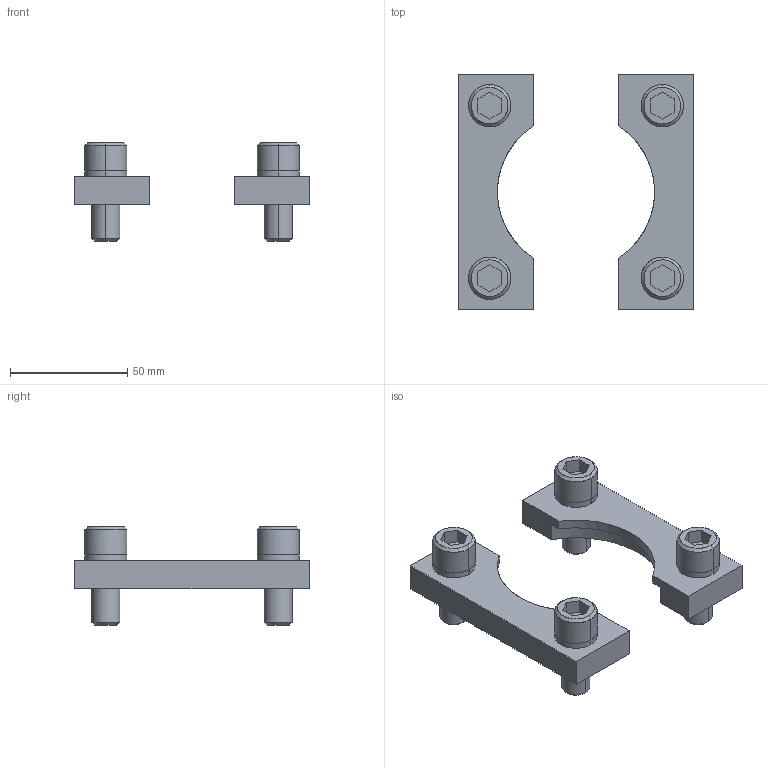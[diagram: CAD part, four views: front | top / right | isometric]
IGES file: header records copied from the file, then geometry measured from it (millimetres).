
Global section: file name: E:\UnigraphicsGraphicData\MISUMI_PRESS-PARTS\IGES\3d_sf75_05187_r00.igs; native system: NX V5.0; preprocessor: UGS NX IGES V5.0; author: MISUMI; date: 20110105.162528; units: millimetre
Bounding box: 100 x 100 x 42 mm (x, y, z)
Surface area: 29784.4 mm2 (no closed solid volume)
Topology: 0 solids, 0 shells, 136 faces, 868 edges, 868 vertices
Faces by surface type: bspline 136
